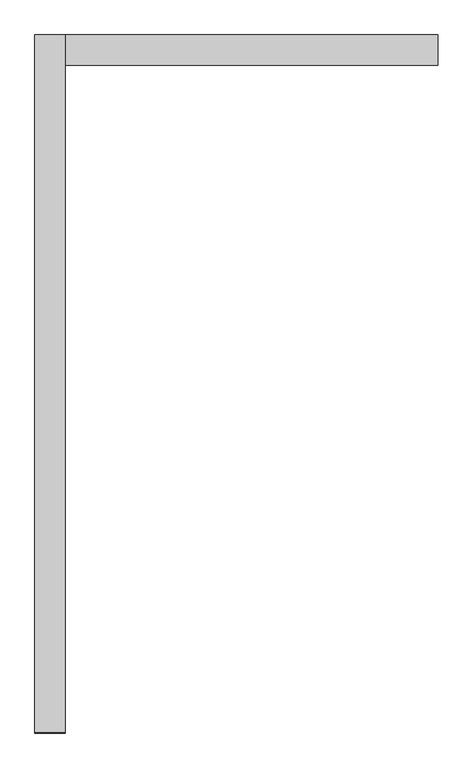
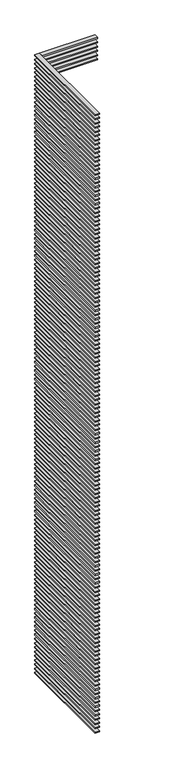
"""IFC4 building model written with IfcOpenShell, lengths in millimetres: proxy geometry, 水平ルーバー（Ｌ型） : ｈ50ｄ200＠200."""

from ifc_helpers import new_model, si_unit, frame, origin, place, context, project, spatial, polyline, outline, extrude, source, transform, mapped, element, save


def generic_models_8edc52f3(model_context):
    return source(origin(), model_context, "Body", "SweptSolid", [
        extrude(outline(polyline([(-100.0, -4625.0), (-300.0, -4625.0), (-300.0, 0.0), (-100.0, 0.0), (-100.0, -4625.0)])), frame((0.0, 0.0, 28975.0), z_axis=(0.0, 0.0, 1.0), x_axis=(1.0, 0.0, 0.0)), (0.0, 0.0, 1.0), 50.0),
        extrude(outline(polyline([(-100.0, -4625.0), (-300.0, -4625.0), (-300.0, 0.0), (-100.0, 0.0), (-100.0, -4625.0)])), frame((0.0, 0.0, 28775.0), z_axis=(0.0, 0.0, 1.0), x_axis=(1.0, 0.0, 0.0)), (0.0, 0.0, 1.0), 50.0),
        extrude(outline(polyline([(-100.0, -4625.0), (-300.0, -4625.0), (-300.0, 0.0), (-100.0, 0.0), (-100.0, -4625.0)])), frame((0.0, 0.0, 28575.0), z_axis=(0.0, 0.0, 1.0), x_axis=(1.0, 0.0, 0.0)), (0.0, 0.0, 1.0), 50.0),
        extrude(outline(polyline([(-100.0, -4625.0), (-300.0, -4625.0), (-300.0, 0.0), (-100.0, 0.0), (-100.0, -4625.0)])), frame((0.0, 0.0, 28375.0), z_axis=(0.0, 0.0, 1.0), x_axis=(1.0, 0.0, 0.0)), (0.0, 0.0, 1.0), 50.0),
        extrude(outline(polyline([(-100.0, -4625.0), (-300.0, -4625.0), (-300.0, 0.0), (-100.0, 0.0), (-100.0, -4625.0)])), frame((0.0, 0.0, 28175.0), z_axis=(0.0, 0.0, 1.0), x_axis=(1.0, 0.0, 0.0)), (0.0, 0.0, 1.0), 50.0),
        extrude(outline(polyline([(-100.0, -4625.0), (-300.0, -4625.0), (-300.0, 0.0), (-100.0, 0.0), (-100.0, -4625.0)])), frame((0.0, 0.0, 27975.0), z_axis=(0.0, 0.0, 1.0), x_axis=(1.0, 0.0, 0.0)), (0.0, 0.0, 1.0), 50.0),
        extrude(outline(polyline([(-100.0, -4625.0), (-300.0, -4625.0), (-300.0, 0.0), (-100.0, 0.0), (-100.0, -4625.0)])), frame((0.0, 0.0, 27775.0), z_axis=(0.0, 0.0, 1.0), x_axis=(1.0, 0.0, 0.0)), (0.0, 0.0, 1.0), 50.0),
        extrude(outline(polyline([(-100.0, -4625.0), (-300.0, -4625.0), (-300.0, 0.0), (-100.0, 0.0), (-100.0, -4625.0)])), frame((0.0, 0.0, 27575.0), z_axis=(0.0, 0.0, 1.0), x_axis=(1.0, 0.0, 0.0)), (0.0, 0.0, 1.0), 50.0),
        extrude(outline(polyline([(-100.0, -4625.0), (-300.0, -4625.0), (-300.0, 0.0), (-100.0, 0.0), (-100.0, -4625.0)])), frame((0.0, 0.0, 27375.0), z_axis=(0.0, 0.0, 1.0), x_axis=(1.0, 0.0, 0.0)), (0.0, 0.0, 1.0), 50.0),
        extrude(outline(polyline([(-100.0, -4625.0), (-300.0, -4625.0), (-300.0, 0.0), (-100.0, 0.0), (-100.0, -4625.0)])), frame((0.0, 0.0, 27175.0), z_axis=(0.0, 0.0, 1.0), x_axis=(1.0, 0.0, 0.0)), (0.0, 0.0, 1.0), 50.0),
        extrude(outline(polyline([(-100.0, -4625.0), (-300.0, -4625.0), (-300.0, 0.0), (-100.0, 0.0), (-100.0, -4625.0)])), frame((0.0, 0.0, 26975.0), z_axis=(0.0, 0.0, 1.0), x_axis=(1.0, 0.0, 0.0)), (0.0, 0.0, 1.0), 50.0),
        extrude(outline(polyline([(-100.0, -4625.0), (-300.0, -4625.0), (-300.0, 0.0), (-100.0, 0.0), (-100.0, -4625.0)])), frame((0.0, 0.0, 26775.0), z_axis=(0.0, 0.0, 1.0), x_axis=(1.0, 0.0, 0.0)), (0.0, 0.0, 1.0), 50.0),
        extrude(outline(polyline([(-100.0, -4625.0), (-300.0, -4625.0), (-300.0, 0.0), (-100.0, 0.0), (-100.0, -4625.0)])), frame((0.0, 0.0, 26575.0), z_axis=(0.0, 0.0, 1.0), x_axis=(1.0, 0.0, 0.0)), (0.0, 0.0, 1.0), 50.0),
        extrude(outline(polyline([(-100.0, -4625.0), (-300.0, -4625.0), (-300.0, 0.0), (-100.0, 0.0), (-100.0, -4625.0)])), frame((0.0, 0.0, 26375.0), z_axis=(0.0, 0.0, 1.0), x_axis=(1.0, 0.0, 0.0)), (0.0, 0.0, 1.0), 50.0),
        extrude(outline(polyline([(-100.0, -4625.0), (-300.0, -4625.0), (-300.0, 0.0), (-100.0, 0.0), (-100.0, -4625.0)])), frame((0.0, 0.0, 26175.0), z_axis=(0.0, 0.0, 1.0), x_axis=(1.0, 0.0, 0.0)), (0.0, 0.0, 1.0), 50.0),
        extrude(outline(polyline([(-100.0, -4625.0), (-300.0, -4625.0), (-300.0, 0.0), (-100.0, 0.0), (-100.0, -4625.0)])), frame((0.0, 0.0, 25975.0), z_axis=(0.0, 0.0, 1.0), x_axis=(1.0, 0.0, 0.0)), (0.0, 0.0, 1.0), 50.0),
        extrude(outline(polyline([(-100.0, -4625.0), (-300.0, -4625.0), (-300.0, 0.0), (-100.0, 0.0), (-100.0, -4625.0)])), frame((0.0, 0.0, 25775.0), z_axis=(0.0, 0.0, 1.0), x_axis=(1.0, 0.0, 0.0)), (0.0, 0.0, 1.0), 50.0),
        extrude(outline(polyline([(-100.0, -4625.0), (-300.0, -4625.0), (-300.0, 0.0), (-100.0, 0.0), (-100.0, -4625.0)])), frame((0.0, 0.0, 25575.0), z_axis=(0.0, 0.0, 1.0), x_axis=(1.0, 0.0, 0.0)), (0.0, 0.0, 1.0), 50.0),
        extrude(outline(polyline([(-100.0, -4625.0), (-300.0, -4625.0), (-300.0, 0.0), (-100.0, 0.0), (-100.0, -4625.0)])), frame((0.0, 0.0, 25375.0), z_axis=(0.0, 0.0, 1.0), x_axis=(1.0, 0.0, 0.0)), (0.0, 0.0, 1.0), 50.0),
        extrude(outline(polyline([(-100.0, -4625.0), (-300.0, -4625.0), (-300.0, 0.0), (-100.0, 0.0), (-100.0, -4625.0)])), frame((0.0, 0.0, 25175.0), z_axis=(0.0, 0.0, 1.0), x_axis=(1.0, 0.0, 0.0)), (0.0, 0.0, 1.0), 50.0),
        extrude(outline(polyline([(-100.0, -4625.0), (-300.0, -4625.0), (-300.0, 0.0), (-100.0, 0.0), (-100.0, -4625.0)])), frame((0.0, 0.0, 24975.0), z_axis=(0.0, 0.0, 1.0), x_axis=(1.0, 0.0, 0.0)), (0.0, 0.0, 1.0), 50.0),
        extrude(outline(polyline([(-100.0, -4625.0), (-300.0, -4625.0), (-300.0, 0.0), (-100.0, 0.0), (-100.0, -4625.0)])), frame((0.0, 0.0, 24775.0), z_axis=(0.0, 0.0, 1.0), x_axis=(1.0, 0.0, 0.0)), (0.0, 0.0, 1.0), 50.0),
        extrude(outline(polyline([(-100.0, -4625.0), (-300.0, -4625.0), (-300.0, 0.0), (-100.0, 0.0), (-100.0, -4625.0)])), frame((0.0, 0.0, 24575.0), z_axis=(0.0, 0.0, 1.0), x_axis=(1.0, 0.0, 0.0)), (0.0, 0.0, 1.0), 50.0),
        extrude(outline(polyline([(-100.0, -4625.0), (-300.0, -4625.0), (-300.0, 0.0), (-100.0, 0.0), (-100.0, -4625.0)])), frame((0.0, 0.0, 24375.0), z_axis=(0.0, 0.0, 1.0), x_axis=(1.0, 0.0, 0.0)), (0.0, 0.0, 1.0), 50.0),
        extrude(outline(polyline([(-100.0, -4625.0), (-300.0, -4625.0), (-300.0, 0.0), (-100.0, 0.0), (-100.0, -4625.0)])), frame((0.0, 0.0, 24175.0), z_axis=(0.0, 0.0, 1.0), x_axis=(1.0, 0.0, 0.0)), (0.0, 0.0, 1.0), 50.0),
        extrude(outline(polyline([(-100.0, -4625.0), (-300.0, -4625.0), (-300.0, 0.0), (-100.0, 0.0), (-100.0, -4625.0)])), frame((0.0, 0.0, 23975.0), z_axis=(0.0, 0.0, 1.0), x_axis=(1.0, 0.0, 0.0)), (0.0, 0.0, 1.0), 50.0),
        extrude(outline(polyline([(-100.0, -4625.0), (-300.0, -4625.0), (-300.0, 0.0), (-100.0, 0.0), (-100.0, -4625.0)])), frame((0.0, 0.0, 23775.0), z_axis=(0.0, 0.0, 1.0), x_axis=(1.0, 0.0, 0.0)), (0.0, 0.0, 1.0), 50.0),
        extrude(outline(polyline([(-100.0, -4625.0), (-300.0, -4625.0), (-300.0, 0.0), (-100.0, 0.0), (-100.0, -4625.0)])), frame((0.0, 0.0, 23575.0), z_axis=(0.0, 0.0, 1.0), x_axis=(1.0, 0.0, 0.0)), (0.0, 0.0, 1.0), 50.0),
        extrude(outline(polyline([(-100.0, -4625.0), (-300.0, -4625.0), (-300.0, 0.0), (-100.0, 0.0), (-100.0, -4625.0)])), frame((0.0, 0.0, 23375.0), z_axis=(0.0, 0.0, 1.0), x_axis=(1.0, 0.0, 0.0)), (0.0, 0.0, 1.0), 50.0),
        extrude(outline(polyline([(-100.0, -4625.0), (-300.0, -4625.0), (-300.0, 0.0), (-100.0, 0.0), (-100.0, -4625.0)])), frame((0.0, 0.0, 23175.0), z_axis=(0.0, 0.0, 1.0), x_axis=(1.0, 0.0, 0.0)), (0.0, 0.0, 1.0), 50.0),
        extrude(outline(polyline([(-100.0, -4625.0), (-300.0, -4625.0), (-300.0, 0.0), (-100.0, 0.0), (-100.0, -4625.0)])), frame((0.0, 0.0, 22975.0), z_axis=(0.0, 0.0, 1.0), x_axis=(1.0, 0.0, 0.0)), (0.0, 0.0, 1.0), 50.0),
        extrude(outline(polyline([(-100.0, -4625.0), (-300.0, -4625.0), (-300.0, 0.0), (-100.0, 0.0), (-100.0, -4625.0)])), frame((0.0, 0.0, 22775.0), z_axis=(0.0, 0.0, 1.0), x_axis=(1.0, 0.0, 0.0)), (0.0, 0.0, 1.0), 50.0),
        extrude(outline(polyline([(-100.0, -4625.0), (-300.0, -4625.0), (-300.0, 0.0), (-100.0, 0.0), (-100.0, -4625.0)])), frame((0.0, 0.0, 22575.0), z_axis=(0.0, 0.0, 1.0), x_axis=(1.0, 0.0, 0.0)), (0.0, 0.0, 1.0), 50.0),
        extrude(outline(polyline([(-100.0, -4625.0), (-300.0, -4625.0), (-300.0, 0.0), (-100.0, 0.0), (-100.0, -4625.0)])), frame((0.0, 0.0, 22375.0), z_axis=(0.0, 0.0, 1.0), x_axis=(1.0, 0.0, 0.0)), (0.0, 0.0, 1.0), 50.0),
        extrude(outline(polyline([(-100.0, -4625.0), (-300.0, -4625.0), (-300.0, 0.0), (-100.0, 0.0), (-100.0, -4625.0)])), frame((0.0, 0.0, 22175.0), z_axis=(0.0, 0.0, 1.0), x_axis=(1.0, 0.0, 0.0)), (0.0, 0.0, 1.0), 50.0),
        extrude(outline(polyline([(-100.0, -4625.0), (-300.0, -4625.0), (-300.0, 0.0), (-100.0, 0.0), (-100.0, -4625.0)])), frame((0.0, 0.0, 21975.0), z_axis=(0.0, 0.0, 1.0), x_axis=(1.0, 0.0, 0.0)), (0.0, 0.0, 1.0), 50.0),
        extrude(outline(polyline([(-100.0, -4625.0), (-300.0, -4625.0), (-300.0, 0.0), (-100.0, 0.0), (-100.0, -4625.0)])), frame((0.0, 0.0, 21775.0), z_axis=(0.0, 0.0, 1.0), x_axis=(1.0, 0.0, 0.0)), (0.0, 0.0, 1.0), 50.0),
        extrude(outline(polyline([(-100.0, -4625.0), (-300.0, -4625.0), (-300.0, 0.0), (-100.0, 0.0), (-100.0, -4625.0)])), frame((0.0, 0.0, 21575.0), z_axis=(0.0, 0.0, 1.0), x_axis=(1.0, 0.0, 0.0)), (0.0, 0.0, 1.0), 50.0),
        extrude(outline(polyline([(-100.0, -4625.0), (-300.0, -4625.0), (-300.0, 0.0), (-100.0, 0.0), (-100.0, -4625.0)])), frame((0.0, 0.0, 21375.0), z_axis=(0.0, 0.0, 1.0), x_axis=(1.0, 0.0, 0.0)), (0.0, 0.0, 1.0), 50.0),
        extrude(outline(polyline([(-100.0, -4625.0), (-300.0, -4625.0), (-300.0, 0.0), (-100.0, 0.0), (-100.0, -4625.0)])), frame((0.0, 0.0, 21175.0), z_axis=(0.0, 0.0, 1.0), x_axis=(1.0, 0.0, 0.0)), (0.0, 0.0, 1.0), 50.0),
        extrude(outline(polyline([(-100.0, -4625.0), (-300.0, -4625.0), (-300.0, 0.0), (-100.0, 0.0), (-100.0, -4625.0)])), frame((0.0, 0.0, 20975.0), z_axis=(0.0, 0.0, 1.0), x_axis=(1.0, 0.0, 0.0)), (0.0, 0.0, 1.0), 50.0),
        extrude(outline(polyline([(-100.0, -4625.0), (-300.0, -4625.0), (-300.0, 0.0), (-100.0, 0.0), (-100.0, -4625.0)])), frame((0.0, 0.0, 20775.0), z_axis=(0.0, 0.0, 1.0), x_axis=(1.0, 0.0, 0.0)), (0.0, 0.0, 1.0), 50.0),
        extrude(outline(polyline([(-100.0, -4625.0), (-300.0, -4625.0), (-300.0, 0.0), (-100.0, 0.0), (-100.0, -4625.0)])), frame((0.0, 0.0, 20575.0), z_axis=(0.0, 0.0, 1.0), x_axis=(1.0, 0.0, 0.0)), (0.0, 0.0, 1.0), 50.0),
        extrude(outline(polyline([(-100.0, -4625.0), (-300.0, -4625.0), (-300.0, 0.0), (-100.0, 0.0), (-100.0, -4625.0)])), frame((0.0, 0.0, 20375.0), z_axis=(0.0, 0.0, 1.0), x_axis=(1.0, 0.0, 0.0)), (0.0, 0.0, 1.0), 50.0),
        extrude(outline(polyline([(-100.0, -4625.0), (-300.0, -4625.0), (-300.0, 0.0), (-100.0, 0.0), (-100.0, -4625.0)])), frame((0.0, 0.0, 20175.0), z_axis=(0.0, 0.0, 1.0), x_axis=(1.0, 0.0, 0.0)), (0.0, 0.0, 1.0), 50.0),
        extrude(outline(polyline([(-100.0, -4625.0), (-300.0, -4625.0), (-300.0, 0.0), (-100.0, 0.0), (-100.0, -4625.0)])), frame((0.0, 0.0, 19975.0), z_axis=(0.0, 0.0, 1.0), x_axis=(1.0, 0.0, 0.0)), (0.0, 0.0, 1.0), 50.0),
        extrude(outline(polyline([(-100.0, -4625.0), (-300.0, -4625.0), (-300.0, 0.0), (-100.0, 0.0), (-100.0, -4625.0)])), frame((0.0, 0.0, 19775.0), z_axis=(0.0, 0.0, 1.0), x_axis=(1.0, 0.0, 0.0)), (0.0, 0.0, 1.0), 50.0),
        extrude(outline(polyline([(-100.0, -4625.0), (-300.0, -4625.0), (-300.0, 0.0), (-100.0, 0.0), (-100.0, -4625.0)])), frame((0.0, 0.0, 19575.0), z_axis=(0.0, 0.0, 1.0), x_axis=(1.0, 0.0, 0.0)), (0.0, 0.0, 1.0), 50.0),
        extrude(outline(polyline([(-100.0, -4625.0), (-300.0, -4625.0), (-300.0, 0.0), (-100.0, 0.0), (-100.0, -4625.0)])), frame((0.0, 0.0, 19375.0), z_axis=(0.0, 0.0, 1.0), x_axis=(1.0, 0.0, 0.0)), (0.0, 0.0, 1.0), 50.0),
        extrude(outline(polyline([(-100.0, -4625.0), (-300.0, -4625.0), (-300.0, 0.0), (-100.0, 0.0), (-100.0, -4625.0)])), frame((0.0, 0.0, 19175.0), z_axis=(0.0, 0.0, 1.0), x_axis=(1.0, 0.0, 0.0)), (0.0, 0.0, 1.0), 50.0),
        extrude(outline(polyline([(-100.0, -4625.0), (-300.0, -4625.0), (-300.0, 0.0), (-100.0, 0.0), (-100.0, -4625.0)])), frame((0.0, 0.0, 18975.0), z_axis=(0.0, 0.0, 1.0), x_axis=(1.0, 0.0, 0.0)), (0.0, 0.0, 1.0), 50.0),
        extrude(outline(polyline([(-100.0, -4625.0), (-300.0, -4625.0), (-300.0, 0.0), (-100.0, 0.0), (-100.0, -4625.0)])), frame((0.0, 0.0, 18775.0), z_axis=(0.0, 0.0, 1.0), x_axis=(1.0, 0.0, 0.0)), (0.0, 0.0, 1.0), 50.0),
        extrude(outline(polyline([(-100.0, -4625.0), (-300.0, -4625.0), (-300.0, 0.0), (-100.0, 0.0), (-100.0, -4625.0)])), frame((0.0, 0.0, 18575.0), z_axis=(0.0, 0.0, 1.0), x_axis=(1.0, 0.0, 0.0)), (0.0, 0.0, 1.0), 50.0),
        extrude(outline(polyline([(-100.0, -4625.0), (-300.0, -4625.0), (-300.0, 0.0), (-100.0, 0.0), (-100.0, -4625.0)])), frame((0.0, 0.0, 18375.0), z_axis=(0.0, 0.0, 1.0), x_axis=(1.0, 0.0, 0.0)), (0.0, 0.0, 1.0), 50.0),
        extrude(outline(polyline([(-100.0, -4625.0), (-300.0, -4625.0), (-300.0, 0.0), (-100.0, 0.0), (-100.0, -4625.0)])), frame((0.0, 0.0, 18175.0), z_axis=(0.0, 0.0, 1.0), x_axis=(1.0, 0.0, 0.0)), (0.0, 0.0, 1.0), 50.0),
        extrude(outline(polyline([(-100.0, -4625.0), (-300.0, -4625.0), (-300.0, 0.0), (-100.0, 0.0), (-100.0, -4625.0)])), frame((0.0, 0.0, 17975.0), z_axis=(0.0, 0.0, 1.0), x_axis=(1.0, 0.0, 0.0)), (0.0, 0.0, 1.0), 50.0),
        extrude(outline(polyline([(-100.0, -4625.0), (-300.0, -4625.0), (-300.0, 0.0), (-100.0, 0.0), (-100.0, -4625.0)])), frame((0.0, 0.0, 17775.0), z_axis=(0.0, 0.0, 1.0), x_axis=(1.0, 0.0, 0.0)), (0.0, 0.0, 1.0), 50.0),
        extrude(outline(polyline([(-100.0, -4625.0), (-300.0, -4625.0), (-300.0, 0.0), (-100.0, 0.0), (-100.0, -4625.0)])), frame((0.0, 0.0, 17575.0), z_axis=(0.0, 0.0, 1.0), x_axis=(1.0, 0.0, 0.0)), (0.0, 0.0, 1.0), 50.0),
        extrude(outline(polyline([(-100.0, -4625.0), (-300.0, -4625.0), (-300.0, 0.0), (-100.0, 0.0), (-100.0, -4625.0)])), frame((0.0, 0.0, 17375.0), z_axis=(0.0, 0.0, 1.0), x_axis=(1.0, 0.0, 0.0)), (0.0, 0.0, 1.0), 50.0),
        extrude(outline(polyline([(-100.0, -4625.0), (-300.0, -4625.0), (-300.0, 0.0), (-100.0, 0.0), (-100.0, -4625.0)])), frame((0.0, 0.0, 17175.0), z_axis=(0.0, 0.0, 1.0), x_axis=(1.0, 0.0, 0.0)), (0.0, 0.0, 1.0), 50.0),
        extrude(outline(polyline([(-100.0, -4625.0), (-300.0, -4625.0), (-300.0, 0.0), (-100.0, 0.0), (-100.0, -4625.0)])), frame((0.0, 0.0, 16975.0), z_axis=(0.0, 0.0, 1.0), x_axis=(1.0, 0.0, 0.0)), (0.0, 0.0, 1.0), 50.0),
        extrude(outline(polyline([(-100.0, -4625.0), (-300.0, -4625.0), (-300.0, 0.0), (-100.0, 0.0), (-100.0, -4625.0)])), frame((0.0, 0.0, 16775.0), z_axis=(0.0, 0.0, 1.0), x_axis=(1.0, 0.0, 0.0)), (0.0, 0.0, 1.0), 50.0),
        extrude(outline(polyline([(-100.0, -4625.0), (-300.0, -4625.0), (-300.0, 0.0), (-100.0, 0.0), (-100.0, -4625.0)])), frame((0.0, 0.0, 16575.0), z_axis=(0.0, 0.0, 1.0), x_axis=(1.0, 0.0, 0.0)), (0.0, 0.0, 1.0), 50.0),
        extrude(outline(polyline([(-100.0, -4625.0), (-300.0, -4625.0), (-300.0, 0.0), (-100.0, 0.0), (-100.0, -4625.0)])), frame((0.0, 0.0, 16375.0), z_axis=(0.0, 0.0, 1.0), x_axis=(1.0, 0.0, 0.0)), (0.0, 0.0, 1.0), 50.0),
        extrude(outline(polyline([(-100.0, -4625.0), (-300.0, -4625.0), (-300.0, 0.0), (-100.0, 0.0), (-100.0, -4625.0)])), frame((0.0, 0.0, 16175.0), z_axis=(0.0, 0.0, 1.0), x_axis=(1.0, 0.0, 0.0)), (0.0, 0.0, 1.0), 50.0),
        extrude(outline(polyline([(-100.0, -4625.0), (-300.0, -4625.0), (-300.0, 0.0), (-100.0, 0.0), (-100.0, -4625.0)])), frame((0.0, 0.0, 15975.0), z_axis=(0.0, 0.0, 1.0), x_axis=(1.0, 0.0, 0.0)), (0.0, 0.0, 1.0), 50.0),
        extrude(outline(polyline([(-100.0, -4625.0), (-300.0, -4625.0), (-300.0, 0.0), (-100.0, 0.0), (-100.0, -4625.0)])), frame((0.0, 0.0, 15775.0), z_axis=(0.0, 0.0, 1.0), x_axis=(1.0, 0.0, 0.0)), (0.0, 0.0, 1.0), 50.0),
        extrude(outline(polyline([(-100.0, -4625.0), (-300.0, -4625.0), (-300.0, 0.0), (-100.0, 0.0), (-100.0, -4625.0)])), frame((0.0, 0.0, 15575.0), z_axis=(0.0, 0.0, 1.0), x_axis=(1.0, 0.0, 0.0)), (0.0, 0.0, 1.0), 50.0),
        extrude(outline(polyline([(-100.0, -4625.0), (-300.0, -4625.0), (-300.0, 0.0), (-100.0, 0.0), (-100.0, -4625.0)])), frame((0.0, 0.0, 15375.0), z_axis=(0.0, 0.0, 1.0), x_axis=(1.0, 0.0, 0.0)), (0.0, 0.0, 1.0), 50.0),
        extrude(outline(polyline([(-100.0, -4625.0), (-300.0, -4625.0), (-300.0, 0.0), (-100.0, 0.0), (-100.0, -4625.0)])), frame((0.0, 0.0, 15175.0), z_axis=(0.0, 0.0, 1.0), x_axis=(1.0, 0.0, 0.0)), (0.0, 0.0, 1.0), 50.0),
        extrude(outline(polyline([(-100.0, -4625.0), (-300.0, -4625.0), (-300.0, 0.0), (-100.0, 0.0), (-100.0, -4625.0)])), frame((0.0, 0.0, 14975.0), z_axis=(0.0, 0.0, 1.0), x_axis=(1.0, 0.0, 0.0)), (0.0, 0.0, 1.0), 50.0),
        extrude(outline(polyline([(-100.0, -4625.0), (-300.0, -4625.0), (-300.0, 0.0), (-100.0, 0.0), (-100.0, -4625.0)])), frame((0.0, 0.0, 14775.0), z_axis=(0.0, 0.0, 1.0), x_axis=(1.0, 0.0, 0.0)), (0.0, 0.0, 1.0), 50.0),
        extrude(outline(polyline([(-100.0, -4625.0), (-300.0, -4625.0), (-300.0, 0.0), (-100.0, 0.0), (-100.0, -4625.0)])), frame((0.0, 0.0, 14575.0), z_axis=(0.0, 0.0, 1.0), x_axis=(1.0, 0.0, 0.0)), (0.0, 0.0, 1.0), 50.0),
        extrude(outline(polyline([(-100.0, -4625.0), (-300.0, -4625.0), (-300.0, 0.0), (-100.0, 0.0), (-100.0, -4625.0)])), frame((0.0, 0.0, 14375.0), z_axis=(0.0, 0.0, 1.0), x_axis=(1.0, 0.0, 0.0)), (0.0, 0.0, 1.0), 50.0),
        extrude(outline(polyline([(-100.0, -4625.0), (-300.0, -4625.0), (-300.0, 0.0), (-100.0, 0.0), (-100.0, -4625.0)])), frame((0.0, 0.0, 14175.0), z_axis=(0.0, 0.0, 1.0), x_axis=(1.0, 0.0, 0.0)), (0.0, 0.0, 1.0), 50.0),
        extrude(outline(polyline([(-100.0, -4625.0), (-300.0, -4625.0), (-300.0, 0.0), (-100.0, 0.0), (-100.0, -4625.0)])), frame((0.0, 0.0, 13975.0), z_axis=(0.0, 0.0, 1.0), x_axis=(1.0, 0.0, 0.0)), (0.0, 0.0, 1.0), 50.0),
        extrude(outline(polyline([(-100.0, -4625.0), (-300.0, -4625.0), (-300.0, 0.0), (-100.0, 0.0), (-100.0, -4625.0)])), frame((0.0, 0.0, 13775.0), z_axis=(0.0, 0.0, 1.0), x_axis=(1.0, 0.0, 0.0)), (0.0, 0.0, 1.0), 50.0),
        extrude(outline(polyline([(-100.0, -4625.0), (-300.0, -4625.0), (-300.0, 0.0), (-100.0, 0.0), (-100.0, -4625.0)])), frame((0.0, 0.0, 13575.0), z_axis=(0.0, 0.0, 1.0), x_axis=(1.0, 0.0, 0.0)), (0.0, 0.0, 1.0), 50.0),
        extrude(outline(polyline([(-100.0, -4625.0), (-300.0, -4625.0), (-300.0, 0.0), (-100.0, 0.0), (-100.0, -4625.0)])), frame((0.0, 0.0, 13375.0), z_axis=(0.0, 0.0, 1.0), x_axis=(1.0, 0.0, 0.0)), (0.0, 0.0, 1.0), 50.0),
        extrude(outline(polyline([(-100.0, -4625.0), (-300.0, -4625.0), (-300.0, 0.0), (-100.0, 0.0), (-100.0, -4625.0)])), frame((0.0, 0.0, 13175.0), z_axis=(0.0, 0.0, 1.0), x_axis=(1.0, 0.0, 0.0)), (0.0, 0.0, 1.0), 50.0),
        extrude(outline(polyline([(-100.0, -4625.0), (-300.0, -4625.0), (-300.0, 0.0), (-100.0, 0.0), (-100.0, -4625.0)])), frame((0.0, 0.0, 12975.0), z_axis=(0.0, 0.0, 1.0), x_axis=(1.0, 0.0, 0.0)), (0.0, 0.0, 1.0), 50.0),
        extrude(outline(polyline([(-100.0, -4625.0), (-300.0, -4625.0), (-300.0, 0.0), (-100.0, 0.0), (-100.0, -4625.0)])), frame((0.0, 0.0, 12775.0), z_axis=(0.0, 0.0, 1.0), x_axis=(1.0, 0.0, 0.0)), (0.0, 0.0, 1.0), 50.0),
        extrude(outline(polyline([(-100.0, -4625.0), (-300.0, -4625.0), (-300.0, 0.0), (-100.0, 0.0), (-100.0, -4625.0)])), frame((0.0, 0.0, 12575.0), z_axis=(0.0, 0.0, 1.0), x_axis=(1.0, 0.0, 0.0)), (0.0, 0.0, 1.0), 50.0),
        extrude(outline(polyline([(-100.0, -4625.0), (-300.0, -4625.0), (-300.0, 0.0), (-100.0, 0.0), (-100.0, -4625.0)])), frame((0.0, 0.0, 12375.0), z_axis=(0.0, 0.0, 1.0), x_axis=(1.0, 0.0, 0.0)), (0.0, 0.0, 1.0), 50.0),
        extrude(outline(polyline([(-100.0, -4625.0), (-300.0, -4625.0), (-300.0, 0.0), (-100.0, 0.0), (-100.0, -4625.0)])), frame((0.0, 0.0, 12175.0), z_axis=(0.0, 0.0, 1.0), x_axis=(1.0, 0.0, 0.0)), (0.0, 0.0, 1.0), 50.0),
        extrude(outline(polyline([(-100.0, -4625.0), (-300.0, -4625.0), (-300.0, 0.0), (-100.0, 0.0), (-100.0, -4625.0)])), frame((0.0, 0.0, 11975.0), z_axis=(0.0, 0.0, 1.0), x_axis=(1.0, 0.0, 0.0)), (0.0, 0.0, 1.0), 50.0),
        extrude(outline(polyline([(-100.0, -4625.0), (-300.0, -4625.0), (-300.0, 0.0), (-100.0, 0.0), (-100.0, -4625.0)])), frame((0.0, 0.0, 11775.0), z_axis=(0.0, 0.0, 1.0), x_axis=(1.0, 0.0, 0.0)), (0.0, 0.0, 1.0), 50.0),
        extrude(outline(polyline([(-100.0, -4625.0), (-300.0, -4625.0), (-300.0, 0.0), (-100.0, 0.0), (-100.0, -4625.0)])), frame((0.0, 0.0, 11575.0), z_axis=(0.0, 0.0, 1.0), x_axis=(1.0, 0.0, 0.0)), (0.0, 0.0, 1.0), 50.0),
        extrude(outline(polyline([(-100.0, -4625.0), (-300.0, -4625.0), (-300.0, 0.0), (-100.0, 0.0), (-100.0, -4625.0)])), frame((0.0, 0.0, 11375.0), z_axis=(0.0, 0.0, 1.0), x_axis=(1.0, 0.0, 0.0)), (0.0, 0.0, 1.0), 50.0),
        extrude(outline(polyline([(-100.0, -4625.0), (-300.0, -4625.0), (-300.0, 0.0), (-100.0, 0.0), (-100.0, -4625.0)])), frame((0.0, 0.0, 11175.0), z_axis=(0.0, 0.0, 1.0), x_axis=(1.0, 0.0, 0.0)), (0.0, 0.0, 1.0), 50.0),
        extrude(outline(polyline([(-100.0, -4625.0), (-300.0, -4625.0), (-300.0, 0.0), (-100.0, 0.0), (-100.0, -4625.0)])), frame((0.0, 0.0, 10975.0), z_axis=(0.0, 0.0, 1.0), x_axis=(1.0, 0.0, 0.0)), (0.0, 0.0, 1.0), 50.0),
        extrude(outline(polyline([(-100.0, -4625.0), (-300.0, -4625.0), (-300.0, 0.0), (-100.0, 0.0), (-100.0, -4625.0)])), frame((0.0, 0.0, 10775.0), z_axis=(0.0, 0.0, 1.0), x_axis=(1.0, 0.0, 0.0)), (0.0, 0.0, 1.0), 50.0),
        extrude(outline(polyline([(-100.0, -4625.0), (-300.0, -4625.0), (-300.0, 0.0), (-100.0, 0.0), (-100.0, -4625.0)])), frame((0.0, 0.0, 10575.0), z_axis=(0.0, 0.0, 1.0), x_axis=(1.0, 0.0, 0.0)), (0.0, 0.0, 1.0), 50.0),
        extrude(outline(polyline([(-100.0, -4625.0), (-300.0, -4625.0), (-300.0, 0.0), (-100.0, 0.0), (-100.0, -4625.0)])), frame((0.0, 0.0, 10375.0), z_axis=(0.0, 0.0, 1.0), x_axis=(1.0, 0.0, 0.0)), (0.0, 0.0, 1.0), 50.0),
        extrude(outline(polyline([(-100.0, -4625.0), (-300.0, -4625.0), (-300.0, 0.0), (-100.0, 0.0), (-100.0, -4625.0)])), frame((0.0, 0.0, 10175.0), z_axis=(0.0, 0.0, 1.0), x_axis=(1.0, 0.0, 0.0)), (0.0, 0.0, 1.0), 50.0),
        extrude(outline(polyline([(-100.0, -4625.0), (-300.0, -4625.0), (-300.0, 0.0), (-100.0, 0.0), (-100.0, -4625.0)])), frame((0.0, 0.0, 9975.0), z_axis=(0.0, 0.0, 1.0), x_axis=(1.0, 0.0, 0.0)), (0.0, 0.0, 1.0), 50.0),
        extrude(outline(polyline([(-100.0, -4625.0), (-300.0, -4625.0), (-300.0, 0.0), (-100.0, 0.0), (-100.0, -4625.0)])), frame((0.0, 0.0, 9775.0), z_axis=(0.0, 0.0, 1.0), x_axis=(1.0, 0.0, 0.0)), (0.0, 0.0, 1.0), 50.0),
        extrude(outline(polyline([(-100.0, -4625.0), (-300.0, -4625.0), (-300.0, 0.0), (-100.0, 0.0), (-100.0, -4625.0)])), frame((0.0, 0.0, 9575.0), z_axis=(0.0, 0.0, 1.0), x_axis=(1.0, 0.0, 0.0)), (0.0, 0.0, 1.0), 50.0),
        extrude(outline(polyline([(-100.0, -4625.0), (-300.0, -4625.0), (-300.0, 0.0), (-100.0, 0.0), (-100.0, -4625.0)])), frame((0.0, 0.0, 9375.0), z_axis=(0.0, 0.0, 1.0), x_axis=(1.0, 0.0, 0.0)), (0.0, 0.0, 1.0), 50.0),
        extrude(outline(polyline([(-100.0, -4625.0), (-300.0, -4625.0), (-300.0, 0.0), (-100.0, 0.0), (-100.0, -4625.0)])), frame((0.0, 0.0, 9175.0), z_axis=(0.0, 0.0, 1.0), x_axis=(1.0, 0.0, 0.0)), (0.0, 0.0, 1.0), 50.0),
        extrude(outline(polyline([(-100.0, -4625.0), (-300.0, -4625.0), (-300.0, 0.0), (-100.0, 0.0), (-100.0, -4625.0)])), frame((0.0, 0.0, 8975.0), z_axis=(0.0, 0.0, 1.0), x_axis=(1.0, 0.0, 0.0)), (0.0, 0.0, 1.0), 50.0),
        extrude(outline(polyline([(-100.0, -4625.0), (-300.0, -4625.0), (-300.0, 0.0), (-100.0, 0.0), (-100.0, -4625.0)])), frame((0.0, 0.0, 8775.0), z_axis=(0.0, 0.0, 1.0), x_axis=(1.0, 0.0, 0.0)), (0.0, 0.0, 1.0), 50.0),
        extrude(outline(polyline([(-100.0, -4625.0), (-300.0, -4625.0), (-300.0, 0.0), (-100.0, 0.0), (-100.0, -4625.0)])), frame((0.0, 0.0, 8575.0), z_axis=(0.0, 0.0, 1.0), x_axis=(1.0, 0.0, 0.0)), (0.0, 0.0, 1.0), 50.0),
        extrude(outline(polyline([(-100.0, -4625.0), (-300.0, -4625.0), (-300.0, 0.0), (-100.0, 0.0), (-100.0, -4625.0)])), frame((0.0, 0.0, 8375.0), z_axis=(0.0, 0.0, 1.0), x_axis=(1.0, 0.0, 0.0)), (0.0, 0.0, 1.0), 50.0),
        extrude(outline(polyline([(-100.0, -4625.0), (-300.0, -4625.0), (-300.0, 0.0), (-100.0, 0.0), (-100.0, -4625.0)])), frame((0.0, 0.0, 8175.0), z_axis=(0.0, 0.0, 1.0), x_axis=(1.0, 0.0, 0.0)), (0.0, 0.0, 1.0), 50.0),
        extrude(outline(polyline([(-100.0, -4625.0), (-300.0, -4625.0), (-300.0, 0.0), (-100.0, 0.0), (-100.0, -4625.0)])), frame((0.0, 0.0, 7975.0), z_axis=(0.0, 0.0, 1.0), x_axis=(1.0, 0.0, 0.0)), (0.0, 0.0, 1.0), 50.0),
        extrude(outline(polyline([(-100.0, -4625.0), (-300.0, -4625.0), (-300.0, 0.0), (-100.0, 0.0), (-100.0, -4625.0)])), frame((0.0, 0.0, 7775.0), z_axis=(0.0, 0.0, 1.0), x_axis=(1.0, 0.0, 0.0)), (0.0, 0.0, 1.0), 50.0),
        extrude(outline(polyline([(-100.0, -4625.0), (-300.0, -4625.0), (-300.0, 0.0), (-100.0, 0.0), (-100.0, -4625.0)])), frame((0.0, 0.0, 7575.0), z_axis=(0.0, 0.0, 1.0), x_axis=(1.0, 0.0, 0.0)), (0.0, 0.0, 1.0), 50.0),
        extrude(outline(polyline([(-100.0, -4625.0), (-300.0, -4625.0), (-300.0, 0.0), (-100.0, 0.0), (-100.0, -4625.0)])), frame((0.0, 0.0, 7375.0), z_axis=(0.0, 0.0, 1.0), x_axis=(1.0, 0.0, 0.0)), (0.0, 0.0, 1.0), 50.0),
        extrude(outline(polyline([(-100.0, -4625.0), (-300.0, -4625.0), (-300.0, 0.0), (-100.0, 0.0), (-100.0, -4625.0)])), frame((0.0, 0.0, 7175.0), z_axis=(0.0, 0.0, 1.0), x_axis=(1.0, 0.0, 0.0)), (0.0, 0.0, 1.0), 50.0),
        extrude(outline(polyline([(-100.0, -4625.0), (-300.0, -4625.0), (-300.0, 0.0), (-100.0, 0.0), (-100.0, -4625.0)])), frame((0.0, 0.0, 6975.0), z_axis=(0.0, 0.0, 1.0), x_axis=(1.0, 0.0, 0.0)), (0.0, 0.0, 1.0), 50.0),
        extrude(outline(polyline([(-100.0, -4625.0), (-300.0, -4625.0), (-300.0, 0.0), (-100.0, 0.0), (-100.0, -4625.0)])), frame((0.0, 0.0, 6775.0), z_axis=(0.0, 0.0, 1.0), x_axis=(1.0, 0.0, 0.0)), (0.0, 0.0, 1.0), 50.0),
        extrude(outline(polyline([(-100.0, -4625.0), (-300.0, -4625.0), (-300.0, 0.0), (-100.0, 0.0), (-100.0, -4625.0)])), frame((0.0, 0.0, 6575.0), z_axis=(0.0, 0.0, 1.0), x_axis=(1.0, 0.0, 0.0)), (0.0, 0.0, 1.0), 50.0),
        extrude(outline(polyline([(-100.0, -4625.0), (-300.0, -4625.0), (-300.0, 0.0), (-100.0, 0.0), (-100.0, -4625.0)])), frame((0.0, 0.0, 6375.0), z_axis=(0.0, 0.0, 1.0), x_axis=(1.0, 0.0, 0.0)), (0.0, 0.0, 1.0), 50.0),
        extrude(outline(polyline([(-100.0, -4625.0), (-300.0, -4625.0), (-300.0, 0.0), (-100.0, 0.0), (-100.0, -4625.0)])), frame((0.0, 0.0, 6175.0), z_axis=(0.0, 0.0, 1.0), x_axis=(1.0, 0.0, 0.0)), (0.0, 0.0, 1.0), 50.0),
        extrude(outline(polyline([(-100.0, -4625.0), (-300.0, -4625.0), (-300.0, 0.0), (-100.0, 0.0), (-100.0, -4625.0)])), frame((0.0, 0.0, 5975.0), z_axis=(0.0, 0.0, 1.0), x_axis=(1.0, 0.0, 0.0)), (0.0, 0.0, 1.0), 50.0),
        extrude(outline(polyline([(-100.0, -4625.0), (-300.0, -4625.0), (-300.0, 0.0), (-100.0, 0.0), (-100.0, -4625.0)])), frame((0.0, 0.0, 5775.0), z_axis=(0.0, 0.0, 1.0), x_axis=(1.0, 0.0, 0.0)), (0.0, 0.0, 1.0), 50.0),
        extrude(outline(polyline([(-100.0, -4625.0), (-300.0, -4625.0), (-300.0, 0.0), (-100.0, 0.0), (-100.0, -4625.0)])), frame((0.0, 0.0, 5575.0), z_axis=(0.0, 0.0, 1.0), x_axis=(1.0, 0.0, 0.0)), (0.0, 0.0, 1.0), 50.0),
        extrude(outline(polyline([(-100.0, -4625.0), (-300.0, -4625.0), (-300.0, 0.0), (-100.0, 0.0), (-100.0, -4625.0)])), frame((0.0, 0.0, 5375.0), z_axis=(0.0, 0.0, 1.0), x_axis=(1.0, 0.0, 0.0)), (0.0, 0.0, 1.0), 50.0),
        extrude(outline(polyline([(-100.0, -4625.0), (-300.0, -4625.0), (-300.0, 0.0), (-100.0, 0.0), (-100.0, -4625.0)])), frame((0.0, 0.0, 5175.0), z_axis=(0.0, 0.0, 1.0), x_axis=(1.0, 0.0, 0.0)), (0.0, 0.0, 1.0), 50.0),
        extrude(outline(polyline([(-100.0, -4625.0), (-300.0, -4625.0), (-300.0, 0.0), (-100.0, 0.0), (-100.0, -4625.0)])), frame((0.0, 0.0, 4975.0), z_axis=(0.0, 0.0, 1.0), x_axis=(1.0, 0.0, 0.0)), (0.0, 0.0, 1.0), 50.0),
        extrude(outline(polyline([(-100.0, -4625.0), (-300.0, -4625.0), (-300.0, 0.0), (-100.0, 0.0), (-100.0, -4625.0)])), frame((0.0, 0.0, 4775.0), z_axis=(0.0, 0.0, 1.0), x_axis=(1.0, 0.0, 0.0)), (0.0, 0.0, 1.0), 50.0),
        extrude(outline(polyline([(-100.0, -4625.0), (-300.0, -4625.0), (-300.0, 0.0), (-100.0, 0.0), (-100.0, -4625.0)])), frame((0.0, 0.0, 4575.0), z_axis=(0.0, 0.0, 1.0), x_axis=(1.0, 0.0, 0.0)), (0.0, 0.0, 1.0), 50.0),
        extrude(outline(polyline([(-100.0, -4625.0), (-300.0, -4625.0), (-300.0, 0.0), (-100.0, 0.0), (-100.0, -4625.0)])), frame((0.0, 0.0, 4375.0), z_axis=(0.0, 0.0, 1.0), x_axis=(1.0, 0.0, 0.0)), (0.0, 0.0, 1.0), 50.0),
        extrude(outline(polyline([(-100.0, -4625.0), (-300.0, -4625.0), (-300.0, 0.0), (-100.0, 0.0), (-100.0, -4625.0)])), frame((0.0, 0.0, 4175.0), z_axis=(0.0, 0.0, 1.0), x_axis=(1.0, 0.0, 0.0)), (0.0, 0.0, 1.0), 50.0),
        extrude(outline(polyline([(-100.0, -4625.0), (-300.0, -4625.0), (-300.0, 0.0), (-100.0, 0.0), (-100.0, -4625.0)])), frame((0.0, 0.0, 3975.0), z_axis=(0.0, 0.0, 1.0), x_axis=(1.0, 0.0, 0.0)), (0.0, 0.0, 1.0), 50.0),
        extrude(outline(polyline([(-100.0, -4625.0), (-300.0, -4625.0), (-300.0, 0.0), (-100.0, 0.0), (-100.0, -4625.0)])), frame((0.0, 0.0, 3775.0), z_axis=(0.0, 0.0, 1.0), x_axis=(1.0, 0.0, 0.0)), (0.0, 0.0, 1.0), 50.0),
        extrude(outline(polyline([(-100.0, -4625.0), (-300.0, -4625.0), (-300.0, 0.0), (-100.0, 0.0), (-100.0, -4625.0)])), frame((0.0, 0.0, 3575.0), z_axis=(0.0, 0.0, 1.0), x_axis=(1.0, 0.0, 0.0)), (0.0, 0.0, 1.0), 50.0),
        extrude(outline(polyline([(-100.0, -4625.0), (-300.0, -4625.0), (-300.0, 0.0), (-100.0, 0.0), (-100.0, -4625.0)])), frame((0.0, 0.0, 3375.0), z_axis=(0.0, 0.0, 1.0), x_axis=(1.0, 0.0, 0.0)), (0.0, 0.0, 1.0), 50.0),
        extrude(outline(polyline([(-100.0, -4625.0), (-300.0, -4625.0), (-300.0, 0.0), (-100.0, 0.0), (-100.0, -4625.0)])), frame((0.0, 0.0, 3175.0), z_axis=(0.0, 0.0, 1.0), x_axis=(1.0, 0.0, 0.0)), (0.0, 0.0, 1.0), 50.0),
        extrude(outline(polyline([(-100.0, -4625.0), (-300.0, -4625.0), (-300.0, 0.0), (-100.0, 0.0), (-100.0, -4625.0)])), frame((0.0, 0.0, 2975.0), z_axis=(0.0, 0.0, 1.0), x_axis=(1.0, 0.0, 0.0)), (0.0, 0.0, 1.0), 50.0),
        extrude(outline(polyline([(-100.0, -4625.0), (-300.0, -4625.0), (-300.0, 0.0), (-100.0, 0.0), (-100.0, -4625.0)])), frame((0.0, 0.0, 2775.0), z_axis=(0.0, 0.0, 1.0), x_axis=(1.0, 0.0, 0.0)), (0.0, 0.0, 1.0), 50.0),
        extrude(outline(polyline([(-100.0, -4625.0), (-300.0, -4625.0), (-300.0, 0.0), (-100.0, 0.0), (-100.0, -4625.0)])), frame((0.0, 0.0, 2575.0), z_axis=(0.0, 0.0, 1.0), x_axis=(1.0, 0.0, 0.0)), (0.0, 0.0, 1.0), 50.0),
        extrude(outline(polyline([(-100.0, -4625.0), (-300.0, -4625.0), (-300.0, 0.0), (-100.0, 0.0), (-100.0, -4625.0)])), frame((0.0, 0.0, 2375.0), z_axis=(0.0, 0.0, 1.0), x_axis=(1.0, 0.0, 0.0)), (0.0, 0.0, 1.0), 50.0),
        extrude(outline(polyline([(-100.0, -4625.0), (-300.0, -4625.0), (-300.0, 0.0), (-100.0, 0.0), (-100.0, -4625.0)])), frame((0.0, 0.0, 2175.0), z_axis=(0.0, 0.0, 1.0), x_axis=(1.0, 0.0, 0.0)), (0.0, 0.0, 1.0), 50.0),
        extrude(outline(polyline([(-100.0, -4625.0), (-300.0, -4625.0), (-300.0, 0.0), (-100.0, 0.0), (-100.0, -4625.0)])), frame((0.0, 0.0, 1975.0), z_axis=(0.0, 0.0, 1.0), x_axis=(1.0, 0.0, 0.0)), (0.0, 0.0, 1.0), 50.0),
        extrude(outline(polyline([(-100.0, -4625.0), (-300.0, -4625.0), (-300.0, 0.0), (-100.0, 0.0), (-100.0, -4625.0)])), frame((0.0, 0.0, 1775.0), z_axis=(0.0, 0.0, 1.0), x_axis=(1.0, 0.0, 0.0)), (0.0, 0.0, 1.0), 50.0),
        extrude(outline(polyline([(-100.0, -4625.0), (-300.0, -4625.0), (-300.0, 0.0), (-100.0, 0.0), (-100.0, -4625.0)])), frame((0.0, 0.0, 1575.0), z_axis=(0.0, 0.0, 1.0), x_axis=(1.0, 0.0, 0.0)), (0.0, 0.0, 1.0), 50.0),
        extrude(outline(polyline([(-100.0, -4625.0), (-300.0, -4625.0), (-300.0, 0.0), (-100.0, 0.0), (-100.0, -4625.0)])), frame((0.0, 0.0, 1375.0), z_axis=(0.0, 0.0, 1.0), x_axis=(1.0, 0.0, 0.0)), (0.0, 0.0, 1.0), 50.0),
        extrude(outline(polyline([(-100.0, -4625.0), (-300.0, -4625.0), (-300.0, 0.0), (-100.0, 0.0), (-100.0, -4625.0)])), frame((0.0, 0.0, 1175.0), z_axis=(0.0, 0.0, 1.0), x_axis=(1.0, 0.0, 0.0)), (0.0, 0.0, 1.0), 50.0),
        extrude(outline(polyline([(-100.0, -4625.0), (-300.0, -4625.0), (-300.0, 0.0), (-100.0, 0.0), (-100.0, -4625.0)])), frame((0.0, 0.0, 975.0), z_axis=(0.0, 0.0, 1.0), x_axis=(1.0, 0.0, 0.0)), (0.0, 0.0, 1.0), 50.0),
        extrude(outline(polyline([(-100.0, -4625.0), (-300.0, -4625.0), (-300.0, 0.0), (-100.0, 0.0), (-100.0, -4625.0)])), frame((0.0, 0.0, 775.0), z_axis=(0.0, 0.0, 1.0), x_axis=(1.0, 0.0, 0.0)), (0.0, 0.0, 1.0), 50.0),
        extrude(outline(polyline([(-100.0, -4625.0), (-300.0, -4625.0), (-300.0, 0.0), (-100.0, 0.0), (-100.0, -4625.0)])), frame((0.0, 0.0, 575.0), z_axis=(0.0, 0.0, 1.0), x_axis=(1.0, 0.0, 0.0)), (0.0, 0.0, 1.0), 50.0),
        extrude(outline(polyline([(-100.0, -4625.0), (-300.0, -4625.0), (-300.0, 0.0), (-100.0, 0.0), (-100.0, -4625.0)])), frame((0.0, 0.0, 375.0), z_axis=(0.0, 0.0, 1.0), x_axis=(1.0, 0.0, 0.0)), (0.0, 0.0, 1.0), 50.0),
        extrude(outline(polyline([(-100.0, -4625.0), (-300.0, -4625.0), (-300.0, 0.0), (-100.0, 0.0), (-100.0, -4625.0)])), frame((0.0, 0.0, 175.0), z_axis=(0.0, 0.0, 1.0), x_axis=(1.0, 0.0, 0.0)), (0.0, 0.0, 1.0), 50.0),
        extrude(outline(polyline([(-100.0, -4625.0), (-300.0, -4625.0), (-300.0, 0.0), (-100.0, 0.0), (-100.0, -4625.0)])), frame((0.0, 0.0, -25.0), z_axis=(0.0, 0.0, 1.0), x_axis=(1.0, 0.0, 0.0)), (0.0, 0.0, 1.0), 50.0),
        extrude(outline(polyline([(-100.0, -200.0), (-100.0, 0.0), (2375.0, 0.0), (2375.0, -200.0), (-100.0, -200.0)])), frame((0.0, 0.0, 28975.0), z_axis=(0.0, 0.0, 1.0), x_axis=(1.0, 0.0, 0.0)), (0.0, 0.0, 1.0), 50.0),
        extrude(outline(polyline([(-100.0, -200.0), (-100.0, 0.0), (2375.0, 0.0), (2375.0, -200.0), (-100.0, -200.0)])), frame((0.0, 0.0, 28775.0), z_axis=(0.0, 0.0, 1.0), x_axis=(1.0, 0.0, 0.0)), (0.0, 0.0, 1.0), 50.0),
        extrude(outline(polyline([(-100.0, -200.0), (-100.0, 0.0), (2375.0, 0.0), (2375.0, -200.0), (-100.0, -200.0)])), frame((0.0, 0.0, 28575.0), z_axis=(0.0, 0.0, 1.0), x_axis=(1.0, 0.0, 0.0)), (0.0, 0.0, 1.0), 50.0),
        extrude(outline(polyline([(-100.0, -200.0), (-100.0, 0.0), (2375.0, 0.0), (2375.0, -200.0), (-100.0, -200.0)])), frame((0.0, 0.0, 28375.0), z_axis=(0.0, 0.0, 1.0), x_axis=(1.0, 0.0, 0.0)), (0.0, 0.0, 1.0), 50.0),
        extrude(outline(polyline([(-100.0, -200.0), (-100.0, 0.0), (2375.0, 0.0), (2375.0, -200.0), (-100.0, -200.0)])), frame((0.0, 0.0, 28175.0), z_axis=(0.0, 0.0, 1.0), x_axis=(1.0, 0.0, 0.0)), (0.0, 0.0, 1.0), 50.0),
        extrude(outline(polyline([(-100.0, -200.0), (-100.0, 0.0), (2375.0, 0.0), (2375.0, -200.0), (-100.0, -200.0)])), frame((0.0, 0.0, 27975.0), z_axis=(0.0, 0.0, 1.0), x_axis=(1.0, 0.0, 0.0)), (0.0, 0.0, 1.0), 50.0),
    ])


if __name__ == "__main__":
    model = new_model("IFC4")
    model_context = context("Model", 3, world=origin())
    ifc_project = project(units=[si_unit("LENGTHUNIT", "METRE", prefix="MILLI")], contexts=[model_context])
    site = spatial("IfcSite", under=ifc_project)
    building = spatial("IfcBuilding", under=site)
    placement = place(None, origin())
    generic_models_shape = generic_models_8edc52f3(model_context)
    element("IfcBuildingElementProxy", 1, Name="水平ルーバー（Ｌ型） : ｈ50ｄ200＠200", ObjectType="水平ルーバー（Ｌ型） : ｈ50ｄ200＠200", at=placement, inside=building, context=model_context, shape_type="MappedRepresentation", body=[
        mapped(generic_models_shape, transform((0.0, 0.0, 0.0), x_axis=(1.0, 0.0, 0.0), y_axis=(0.0, 1.0, 0.0), z_axis=(0.0, 0.0, 1.0))),
    ])
    save(model, "model.ifc")
